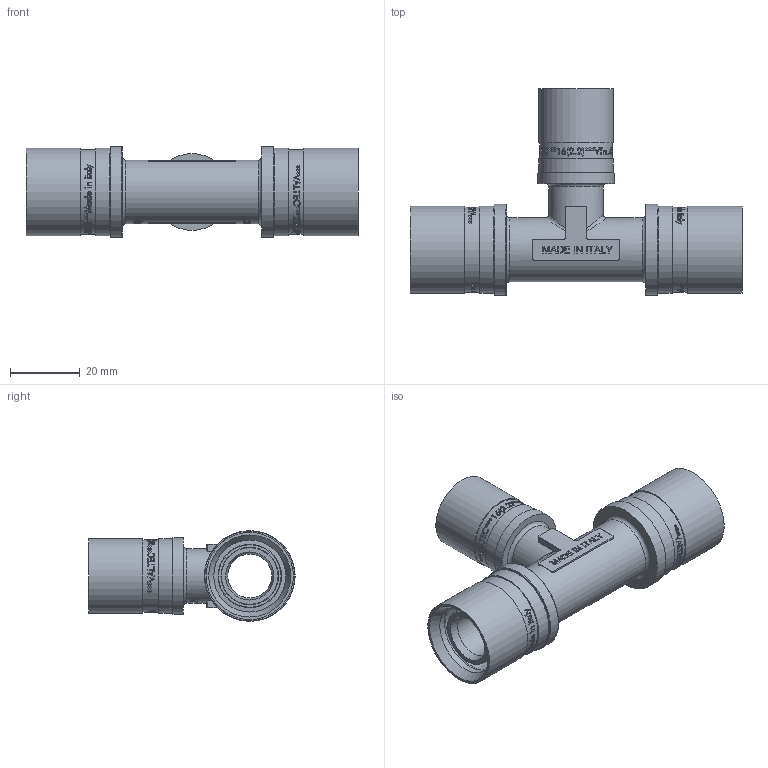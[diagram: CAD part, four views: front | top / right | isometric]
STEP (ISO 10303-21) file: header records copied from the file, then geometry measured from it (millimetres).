
FILE_DESCRIPTION(/* description */ (''),/* implementation_level */ '2;1');
FILE_NAME(/* name */ 'F:\Артём\00000\Работа удаленка\Аксеальные фитинги\VTm.431.BG.201620.stp',/* time_stamp */ '2021-01-26T12:07:28+03:00',/* author */ ('almis'),/* organization */ (''),/* preprocessor_version */ 'ST-DEVELOPER v18',/* originating_system */ 'Autodesk Inventor 2020',/* authorisation */ '');
FILE_SCHEMA (('AUTOMOTIVE_DESIGN { 1 0 10303 214 3 1 1 }'));
Length unit declared in the file: millimetre
Products named in the file (1): VTm.403.BG.001616
Bounding box: 95.12 x 59.1 x 26 mm (x, y, z)
Volume: 24496.7 mm3; surface area: 23222.8 mm2
Topology: 1 solids, 1 shells, 2425 faces, 6588 edges, 4427 vertices
Faces by surface type: bspline 1263, plane 844, cylinder 272, torus 25, cone 21
Full cylindrical faces by diameter (mm): 10 x1, 12.6 x1, 12.8 x5, 13.4 x4, 15 x1, 15.5 x1, 15.7 x10, 16.5 x8, 16.9 x2, 18.2 x2, 18.3 x1, 20.65 x4, 20.8 x1, 21.4 x2, 22 x1, 24.3 x2, 25 x4, 26 x2
Entity records: 100469 total; most frequent: CARTESIAN_POINT 46821, ORIENTED_EDGE 13178, DIRECTION 7387, EDGE_CURVE 6589, VERTEX_POINT 4428, LINE 3013, VECTOR 3013, EDGE_LOOP 2691
